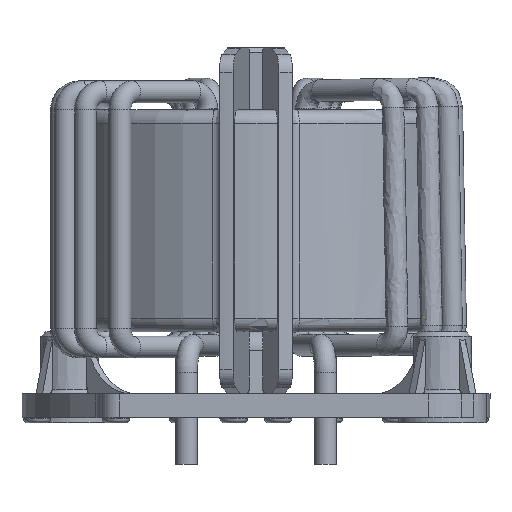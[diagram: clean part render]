
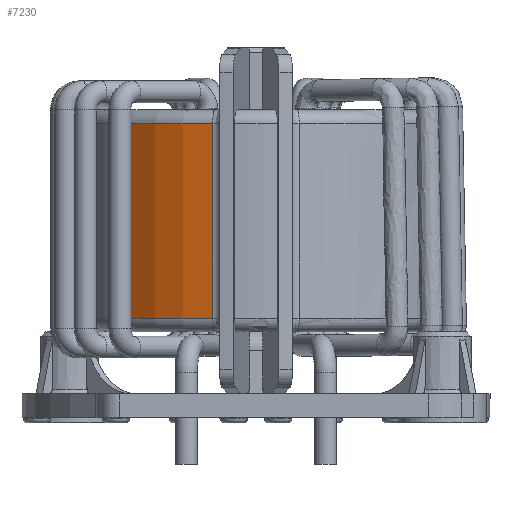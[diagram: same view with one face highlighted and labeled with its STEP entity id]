
A CAD part, left-side view. The second image highlights one B-rep face of the part: STEP entity #7230.
In plain terms, the highlighted cylindrical face has radius 20.1 mm (diameter 40.2 mm), a partial arc.
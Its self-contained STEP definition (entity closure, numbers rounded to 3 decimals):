
#6121=CARTESIAN_POINT('',(-15.678,14.732,22.83));
#6122=VERTEX_POINT('',#6121);
#6156=CARTESIAN_POINT('',(-15.678,14.732,1.5));
#6157=VERTEX_POINT('',#6156);
#6187=CARTESIAN_POINT('',(-15.678,14.732,22.83));
#6188=DIRECTION('',(0.0,0.0,-1.0));
#6189=VECTOR('',#6188,21.33);
#6190=LINE('',#6187,#6189);
#6191=EDGE_CURVE('',#6122,#6157,#6190,.T.);
#7144=CARTESIAN_POINT('',(-20.533,5.742,1.5));
#7145=VERTEX_POINT('',#7144);
#7155=CARTESIAN_POINT('',(-1.,1.,1.5));
#7156=DIRECTION('',(0.0,0.0,-1.0));
#7157=DIRECTION('',(0.0,1.0,0.0));
#7158=AXIS2_PLACEMENT_3D('',#7155,#7156,#7157);
#7159=CIRCLE('',#7158,20.1);
#7160=EDGE_CURVE('',#7145,#6157,#7159,.T.);
#7206=CARTESIAN_POINT('',(-1.,1.,0.));
#7207=DIRECTION('',(0.,0.,1.0));
#7208=DIRECTION('',(0.0,1.0,0.0));
#7209=AXIS2_PLACEMENT_3D('',#7206,#7207,#7208);
#7210=CYLINDRICAL_SURFACE('',#7209,20.1);
#7211=ORIENTED_EDGE('',*,*,#6191,.T.);
#7212=ORIENTED_EDGE('',*,*,#7160,.F.);
#7213=CARTESIAN_POINT('',(-20.533,5.742,22.83));
#7214=VERTEX_POINT('',#7213);
#7215=CARTESIAN_POINT('',(-20.533,5.742,22.83));
#7216=DIRECTION('',(0.0,0.0,-1.0));
#7217=VECTOR('',#7216,21.33);
#7218=LINE('',#7215,#7217);
#7219=EDGE_CURVE('',#7214,#7145,#7218,.T.);
#7220=ORIENTED_EDGE('',*,*,#7219,.F.);
#7221=CARTESIAN_POINT('',(-1.,1.,22.83));
#7222=DIRECTION('',(0.0,0.0,1.0));
#7223=DIRECTION('',(0.0,1.0,0.0));
#7224=AXIS2_PLACEMENT_3D('',#7221,#7222,#7223);
#7225=CIRCLE('',#7224,20.1);
#7226=EDGE_CURVE('',#6122,#7214,#7225,.T.);
#7227=ORIENTED_EDGE('',*,*,#7226,.F.);
#7228=EDGE_LOOP('',(#7211,#7212,#7220,#7227));
#7229=FACE_OUTER_BOUND('',#7228,.T.);
#7230=ADVANCED_FACE('',(#7229),#7210,.T.);
